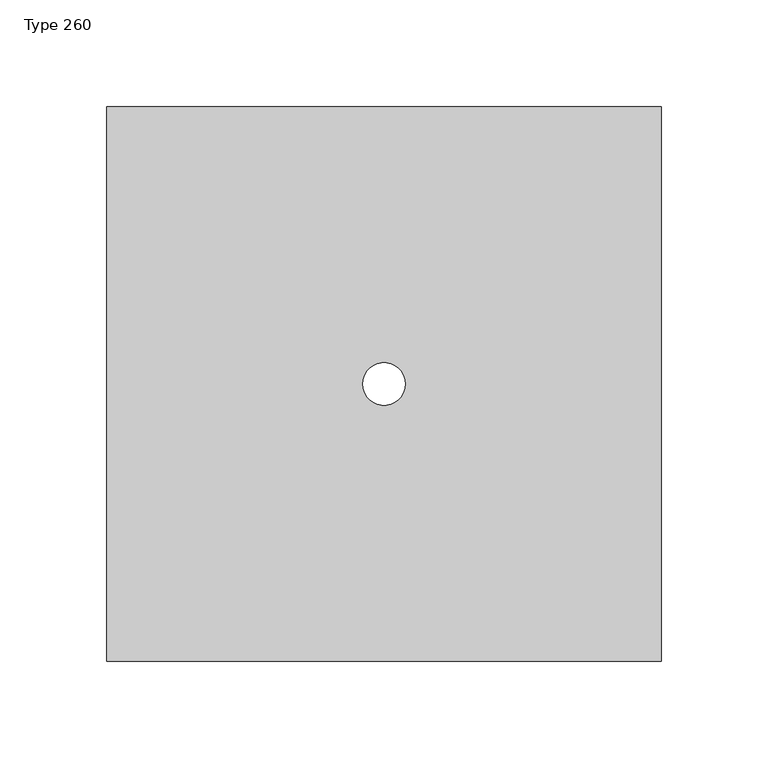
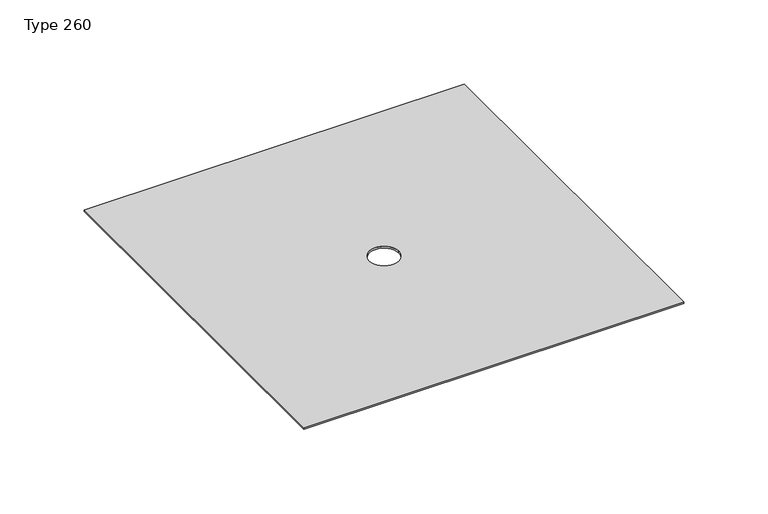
"""IFC4 building model written with IfcOpenShell, lengths in millimetres: proxy geometry, Dafa_Hi-tack_Pipe_Collar_FaceBased : Type 260."""

import ifcopenshell
import ifcopenshell.guid

model = None  # the IFC model being written
_history = None  # IfcOwnerHistory: only IFC2X3 demands one
_inside = {}  # id of a spatial element -> (the spatial element, [elements in it])
_under = {}  # id of a project, library or spatial element -> (it, [spatial elements below it])
_declared = {}  # id of a project -> (the project, [libraries it declares])
_typed = {}  # id of a type object -> (the type object, [elements of that type])
_made_of = {}  # id of a material, layer set ... -> (it, [elements and type objects made of it])


def new_model(schema):
    """Start an empty IFC model of exactly this schema.

    Asked for "IFC4X3", IfcOpenShell would pick the latest addendum, in which some entities
    have other attributes; the version numbers below select the first issue.
    IFC2X3 requires an IfcOwnerHistory on every rooted entity: one is made here for all.
    """
    global model, _history
    if schema == "IFC4X3":
        model = ifcopenshell.file(schema_version=(4, 3, 0, 0))
    else:
        model = ifcopenshell.file(schema=schema)
    _inside.clear()
    _under.clear()
    _declared.clear()
    _typed.clear()
    _made_of.clear()
    _history = None
    if model.schema == "IFC2X3":
        org = make("IfcOrganization", Name="unknown")
        user = make(
            "IfcPersonAndOrganization",
            ThePerson=make("IfcPerson", FamilyName="unknown"),
            TheOrganization=org,
        )
        app = make(
            "IfcApplication",
            ApplicationDeveloper=org,
            Version="unknown",
            ApplicationFullName="unknown",
            ApplicationIdentifier="unknown",
        )
        _history = make(
            "IfcOwnerHistory",
            OwningUser=user,
            OwningApplication=app,
            ChangeAction="ADDED",
            CreationDate=0,
        )
    return model


def make(cls, **values):
    """One entity of the class cls with the attributes given. An attribute that is None is left unset."""
    return model.create_entity(
        cls, **{name: value for name, value in values.items() if value is not None}
    )


def rooted(cls, **values):
    """An entity with a GlobalId (a new one), such as an element, a storey or a relation."""
    return make(cls, GlobalId=ifcopenshell.guid.new(), OwnerHistory=_history, **values)


def si_unit(unit_type, name, prefix=None):
    """IfcSIUnit, for example si_unit("LENGTHUNIT", "METRE", prefix="MILLI")."""
    return make("IfcSIUnit", UnitType=unit_type, Prefix=prefix, Name=name)


def assignment(units):
    """IfcUnitAssignment: the units of a project."""
    return None if units is None else make("IfcUnitAssignment", Units=units)


def point(xyz):
    """IfcCartesianPoint."""
    return None if xyz is None else make("IfcCartesianPoint", Coordinates=xyz)


def direction(xyz):
    """IfcDirection."""
    return None if xyz is None else make("IfcDirection", DirectionRatios=xyz)


def frame(location, z_axis=None, x_axis=None):
    """IfcAxis2Placement3D, a coordinate frame: its origin and axes. An axis left out is left unset."""
    return make(
        "IfcAxis2Placement3D",
        Location=point(location),
        Axis=direction(z_axis),
        RefDirection=direction(x_axis),
    )


def frame_2d(location, x_axis=None):
    """IfcAxis2Placement2D, a coordinate frame in the plane: its origin and x axis."""
    return make(
        "IfcAxis2Placement2D", Location=point(location), RefDirection=direction(x_axis)
    )


def origin():
    """The frame at (0, 0, 0) with its axes left unset."""
    return frame((0.0, 0.0, 0.0))


def origin_with_axes():
    """The frame at (0, 0, 0) with the z axis (0, 0, 1) and the x axis (1, 0, 0) written out."""
    return frame((0.0, 0.0, 0.0), z_axis=(0.0, 0.0, 1.0), x_axis=(1.0, 0.0, 0.0))


def origin_2d():
    """The frame at (0, 0) in the plane with its x axis left unset."""
    return frame_2d((0.0, 0.0))


def place(relative_to, where):
    """IfcLocalPlacement: puts the frame where relative to a parent placement (None: the world)."""
    return make(
        "IfcLocalPlacement", PlacementRelTo=relative_to, RelativePlacement=where
    )


def context(
    kind, dimensions, precision=None, world=None, true_north=None, identifier=None
):
    """IfcGeometricRepresentationContext, for example the 3D "Model" context."""
    return make(
        "IfcGeometricRepresentationContext",
        ContextIdentifier=identifier,
        ContextType=kind,
        CoordinateSpaceDimension=dimensions,
        Precision=precision,
        WorldCoordinateSystem=world,
        TrueNorth=true_north,
    )


def project(units=None, contexts=None):
    """IfcProject with its units and contexts."""
    return rooted(
        "IfcProject",
        Name="project",
        RepresentationContexts=contexts,
        UnitsInContext=assignment(units),
    )


def spatial(cls, under=None, at=None, **own):
    """A site, building, storey or space (cls), placed at a placement, below another one or the project."""
    s = rooted(cls, ObjectPlacement=at, **own)
    if under is not None:
        _under.setdefault(under.id(), (under, []))[1].append(s)
    return s


def polyline(points):
    """IfcPolyline through the points."""
    return make("IfcPolyline", Points=[point(p) for p in points])


def circle_curve(where, radius):
    """IfcCircle in the frame where."""
    return make("IfcCircle", Position=where, Radius=radius)


def trimmed(basis, trim1, trim2, sense, master):
    """IfcTrimmedCurve: the piece of a basis curve between two trims."""
    return make(
        "IfcTrimmedCurve",
        BasisCurve=basis,
        Trim1=trim1,
        Trim2=trim2,
        SenseAgreement=sense,
        MasterRepresentation=master,
    )


def segment(curve, same_sense, transition):
    """IfcCompositeCurveSegment."""
    return make(
        "IfcCompositeCurveSegment",
        Transition=transition,
        SameSense=same_sense,
        ParentCurve=curve,
    )


def composite_curve(segments, self_intersect=None):
    """IfcCompositeCurve: segments joined end to end."""
    return make("IfcCompositeCurve", Segments=segments, SelfIntersect=self_intersect)


def outline(outer, holes=None, kind="AREA"):
    """IfcArbitraryClosedProfileDef: a profile drawn as a closed curve; with holes, ...WithVoids."""
    if holes is None:
        return make("IfcArbitraryClosedProfileDef", ProfileType=kind, OuterCurve=outer)
    return make(
        "IfcArbitraryProfileDefWithVoids",
        ProfileType=kind,
        OuterCurve=outer,
        InnerCurves=holes,
    )


def extrude(swept, where, along, depth):
    """IfcExtrudedAreaSolid: the profile swept, set in the frame where, extruded along a direction by depth."""
    return make(
        "IfcExtrudedAreaSolid",
        SweptArea=swept,
        Position=where,
        ExtrudedDirection=direction(along),
        Depth=depth,
    )


def shape(context_of_items, identifier, shape_type, items):
    """IfcShapeRepresentation: the items that make up one representation, for example the "Body"."""
    return make(
        "IfcShapeRepresentation",
        ContextOfItems=context_of_items,
        RepresentationIdentifier=identifier,
        RepresentationType=shape_type,
        Items=items,
    )


def source(mapping_origin, context_of_items, identifier, shape_type, items):
    """IfcRepresentationMap: a shape defined once, which mapped items show again and again."""
    return make(
        "IfcRepresentationMap",
        MappingOrigin=mapping_origin,
        MappedRepresentation=shape(context_of_items, identifier, shape_type, items),
    )


def transform(
    local_origin,
    x_axis=None,
    y_axis=None,
    z_axis=None,
    scale=None,
    scale2=None,
    scale3=None,
    uniform=True,
):
    """IfcCartesianTransformationOperator3D, or its non-uniform kind. x_axis, y_axis, z_axis: its Axis1, 2, 3."""
    if uniform:
        return make(
            "IfcCartesianTransformationOperator3D",
            Axis1=direction(x_axis),
            Axis2=direction(y_axis),
            LocalOrigin=point(local_origin),
            Scale=scale,
            Axis3=direction(z_axis),
        )
    return make(
        "IfcCartesianTransformationOperator3DnonUniform",
        Axis1=direction(x_axis),
        Axis2=direction(y_axis),
        LocalOrigin=point(local_origin),
        Scale=scale,
        Axis3=direction(z_axis),
        Scale2=scale2,
        Scale3=scale3,
    )


def mapped(mapping_source, mapping_target):
    """IfcMappedItem: shows the shape of a source again, moved by a transform."""
    return make(
        "IfcMappedItem", MappingSource=mapping_source, MappingTarget=mapping_target
    )


def made_of(thing, what):
    """Note that an element or type object is made of a material, layer set ...; save() writes the relation."""
    if what is not None:
        _made_of.setdefault(what.id(), (what, []))[1].append(thing)
    return thing


def element(
    cls,
    number,
    at=None,
    inside=None,
    cuts=None,
    type_object=None,
    material=None,
    context=None,
    identifier="Body",
    shape_type=None,
    held_by="IfcProductDefinitionShape",
    body=None,
    shapes=None,
    **own,
):
    """One element of the class cls, such as IfcWall. Its Tag is "e" and its number.

    at: its placement. inside: the storey or other place that contains it. cuts: it is an
    opening in that element (IfcRelVoidsElement). A single representation is given by context,
    identifier, shape_type and body (its items); several are given by shapes. held_by: the class
    of the entity that holds the representations. save() writes the other relations.
    """
    e = rooted(cls, Tag="e%d" % number, ObjectPlacement=at, **own)
    if body is not None:
        shapes = [shape(context, identifier, shape_type, body)]
    if shapes is not None:
        e.Representation = make(held_by, Representations=shapes)
    if inside is not None:
        _inside.setdefault(inside.id(), (inside, []))[1].append(e)
    if cuts is not None:
        rooted(
            "IfcRelVoidsElement", RelatingBuildingElement=cuts, RelatedOpeningElement=e
        )
    if type_object is not None:
        _typed.setdefault(type_object.id(), (type_object, []))[1].append(e)
    return made_of(e, material)


def aggregate(whole, parts):
    """IfcRelAggregates: a whole, such as a stair, and the parts it consists of."""
    return rooted("IfcRelAggregates", RelatingObject=whole, RelatedObjects=parts)


def save(model, path):
    """Write the relations noted so far, then the file.

    IfcRelAggregates (storeys below a building ...), IfcRelContainedInSpatialStructure (elements
    in a storey), IfcRelDefinesByType, IfcRelAssociatesMaterial and IfcRelDeclares: one each for
    every whole, place, type object, material and project.
    """
    for whole, parts in _under.values():
        aggregate(whole, parts)
    for where, things in _inside.values():
        rooted(
            "IfcRelContainedInSpatialStructure",
            RelatedElements=things,
            RelatingStructure=where,
        )
    for kind, things in _typed.values():
        rooted("IfcRelDefinesByType", RelatedObjects=things, RelatingType=kind)
    for what, things in _made_of.values():
        rooted("IfcRelAssociatesMaterial", RelatedObjects=things, RelatingMaterial=what)
    for by, libraries in _declared.values():
        rooted("IfcRelDeclares", RelatingContext=by, RelatedDefinitions=libraries)
    model.write(path)


def type_260_1be04fd2(model_context):
    return source(origin(), model_context, "Body", "SweptSolid", [
        extrude(outline(polyline([(130.0, 130.0), (130.0, -130.0), (-130.0, -130.0), (-130.0, 130.0), (130.0, 130.0)]), holes=[composite_curve([segment(trimmed(circle_curve(origin_2d(), 10.0), [point((-10.0, 0.0))], [point((10.0, 0.0))], True, "CARTESIAN"), True, "CONTINUOUS"), segment(trimmed(circle_curve(origin_2d(), 10.0), [point((10.0, 0.0))], [point((-10.0, 0.0))], True, "CARTESIAN"), True, "CONTINUOUS")], self_intersect=False)]), origin_with_axes(), (0.0, 0.0, 1.0), 1.2),
    ])


if __name__ == "__main__":
    model = new_model("IFC4")
    model_context = context("Model", 3, world=origin())
    ifc_project = project(units=[si_unit("LENGTHUNIT", "METRE", prefix="MILLI")], contexts=[model_context])
    site = spatial("IfcSite", under=ifc_project)
    building = spatial("IfcBuilding", under=site)
    placement = place(None, origin())
    type_260_shape = type_260_1be04fd2(model_context)
    element("IfcBuildingElementProxy", 1, Name="Dafa_Hi-tack_Pipe_Collar_FaceBased : Type 260", ObjectType="Dafa_Hi-tack_Pipe_Collar_FaceBased : Type 260", at=placement, inside=building, context=model_context, shape_type="MappedRepresentation", body=[
        mapped(type_260_shape, transform((0.0, 0.0, 0.0), x_axis=(1.0, 0.0, 0.0), y_axis=(0.0, 1.0, 0.0), z_axis=(0.0, 0.0, 1.0))),
    ])
    save(model, "model.ifc")
